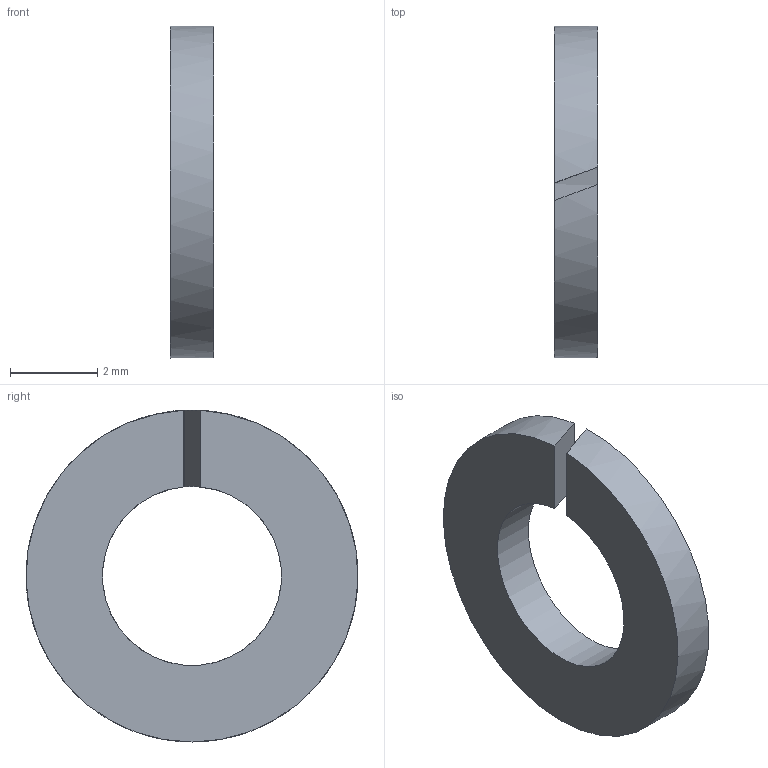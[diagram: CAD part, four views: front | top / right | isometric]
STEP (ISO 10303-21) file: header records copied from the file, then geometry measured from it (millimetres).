
FILE_DESCRIPTION(/* description */ ('스프링 와셔'),/* implementation_level */ '2;1');
FILE_NAME(/* name */ '',/* time_stamp */ '2024-04-08T11:17:20+09:00',/* author */ ('jhkim'),/* organization */ (''),/* preprocessor_version */ 'ST-DEVELOPER v20',/* originating_system */ 'Autodesk Inventor 2025',/* authorisation */ '');
FILE_SCHEMA (('AUTOMOTIVE_DESIGN { 1 0 10303 214 3 1 1 }'));
Length unit declared in the file: millimetre
Products named in the file (1): 스프링 와셔 M4
Bounding box: 1 x 7.6 x 7.6 mm (x, y, z)
Volume: 31.5 mm3; surface area: 102.6 mm2
Topology: 1 solids, 1 shells, 6 faces, 12 edges, 8 vertices
Faces by surface type: plane 4, cylinder 2
Entity records: 207 total; most frequent: DIRECTION 34, CARTESIAN_POINT 27, ORIENTED_EDGE 24, AXIS2_PLACEMENT_3D 15, EDGE_CURVE 12, VERTEX_POINT 8, FACE_OUTER_BOUND 6, EDGE_LOOP 6
